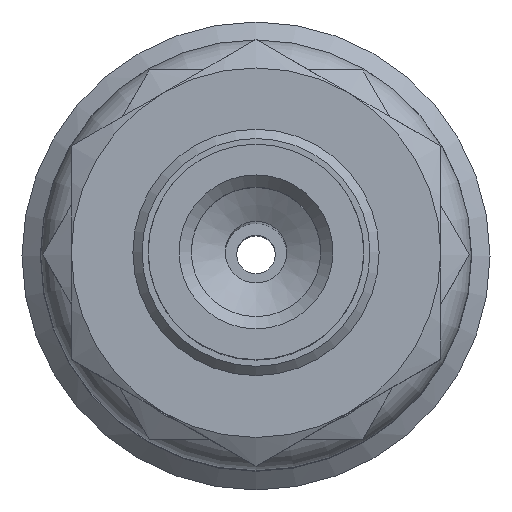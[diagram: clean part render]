
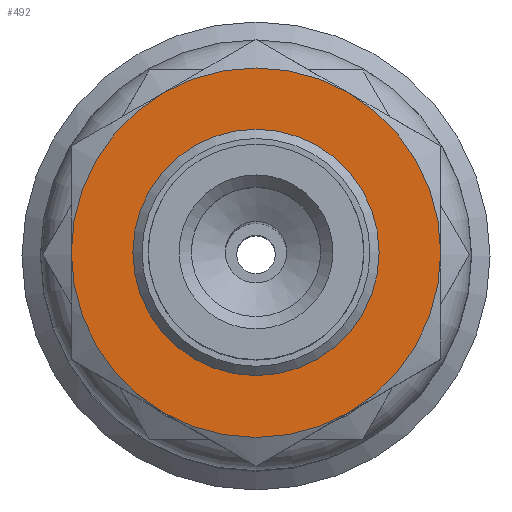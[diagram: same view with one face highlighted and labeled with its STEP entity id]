
A CAD part, top view. The second image highlights one B-rep face of the part: STEP entity #492.
In plain terms, the highlighted planar face has unit normal (0, 0, 1).
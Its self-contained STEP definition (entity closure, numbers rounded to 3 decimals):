
#492=ADVANCED_FACE('',(#786,#787),#788,.T.);
#786=FACE_BOUND('',#1309,.T.);
#787=FACE_OUTER_BOUND('',#1310,.T.);
#788=PLANE('',#1311);
#1309=EDGE_LOOP('',(#1993));
#1310=EDGE_LOOP('',(#1994,#1995,#1996,#1997,#1998,#1999));
#1311=AXIS2_PLACEMENT_3D('',#2000,#2001,#2002);
#1993=ORIENTED_EDGE('',*,*,#3211,.T.);
#1994=ORIENTED_EDGE('',*,*,#3212,.T.);
#1995=ORIENTED_EDGE('',*,*,#3213,.T.);
#1996=ORIENTED_EDGE('',*,*,#3177,.T.);
#1997=ORIENTED_EDGE('',*,*,#3199,.T.);
#1998=ORIENTED_EDGE('',*,*,#3214,.T.);
#1999=ORIENTED_EDGE('',*,*,#3209,.T.);
#2000=CARTESIAN_POINT('',(-6.928,-6.0,3.0));
#2001=DIRECTION('',(0.0,0.0,1.0));
#2002=DIRECTION('',(1.0,0.0,0.0));
#3177=EDGE_CURVE('',#3616,#3607,#3617,.T.);
#3199=EDGE_CURVE('',#3607,#3653,#3655,.T.);
#3209=EDGE_CURVE('',#3631,#3622,#3668,.T.);
#3211=EDGE_CURVE('',#3670,#3670,#3671,.T.);
#3212=EDGE_CURVE('',#3622,#3649,#3672,.T.);
#3213=EDGE_CURVE('',#3649,#3616,#3673,.T.);
#3214=EDGE_CURVE('',#3653,#3631,#3674,.T.);
#3607=VERTEX_POINT('',#4294);
#3616=VERTEX_POINT('',#4316);
#3617=CIRCLE('',#4317,6.0);
#3622=VERTEX_POINT('',#4327);
#3631=VERTEX_POINT('',#4349);
#3649=VERTEX_POINT('',#4393);
#3653=VERTEX_POINT('',#4405);
#3655=CIRCLE('',#4411,6.0);
#3668=CIRCLE('',#4440,6.0);
#3670=VERTEX_POINT('',#4442);
#3671=CIRCLE('',#4443,3.925);
#3672=CIRCLE('',#4444,6.0);
#3673=CIRCLE('',#4445,6.0);
#3674=CIRCLE('',#4446,6.0);
#4294=CARTESIAN_POINT('',(-5.196,3.0,3.0));
#4316=CARTESIAN_POINT('',(0.,6.0,3.0));
#4317=AXIS2_PLACEMENT_3D('',#5692,#5693,#5694);
#4327=CARTESIAN_POINT('',(5.196,-3.0,3.0));
#4349=CARTESIAN_POINT('',(0.,-6.0,3.0));
#4393=CARTESIAN_POINT('',(5.196,3.0,3.0));
#4405=CARTESIAN_POINT('',(-5.196,-3.0,3.0));
#4411=AXIS2_PLACEMENT_3D('',#5705,#5706,#5707);
#4440=AXIS2_PLACEMENT_3D('',#5720,#5721,#5722);
#4442=CARTESIAN_POINT('',(3.925,0.0,3.0));
#4443=AXIS2_PLACEMENT_3D('',#5726,#5727,#5728);
#4444=AXIS2_PLACEMENT_3D('',#5729,#5730,#5731);
#4445=AXIS2_PLACEMENT_3D('',#5732,#5733,#5734);
#4446=AXIS2_PLACEMENT_3D('',#5735,#5736,#5737);
#5692=CARTESIAN_POINT('',(0.,0.0,3.0));
#5693=DIRECTION('',(0.0,0.,1.0));
#5694=DIRECTION('',(0.0,-1.0,0.));
#5705=CARTESIAN_POINT('',(0.,0.0,3.0));
#5706=DIRECTION('',(0.0,0.,1.0));
#5707=DIRECTION('',(0.0,-1.0,0.));
#5720=CARTESIAN_POINT('',(0.,0.0,3.0));
#5721=DIRECTION('',(0.0,0.,1.0));
#5722=DIRECTION('',(0.0,-1.0,0.));
#5726=CARTESIAN_POINT('',(0.0,0.0,3.0));
#5727=DIRECTION('',(0.0,0.0,-1.0));
#5728=DIRECTION('',(1.0,0.0,0.0));
#5729=CARTESIAN_POINT('',(0.,0.0,3.0));
#5730=DIRECTION('',(0.0,0.,1.0));
#5731=DIRECTION('',(0.0,-1.0,0.));
#5732=CARTESIAN_POINT('',(0.,0.0,3.0));
#5733=DIRECTION('',(0.0,0.,1.0));
#5734=DIRECTION('',(0.0,-1.0,0.));
#5735=CARTESIAN_POINT('',(0.,0.0,3.0));
#5736=DIRECTION('',(0.0,0.,1.0));
#5737=DIRECTION('',(0.0,-1.0,0.));
